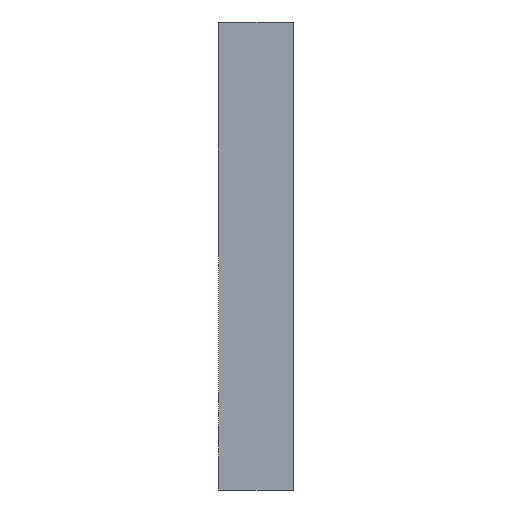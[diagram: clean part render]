
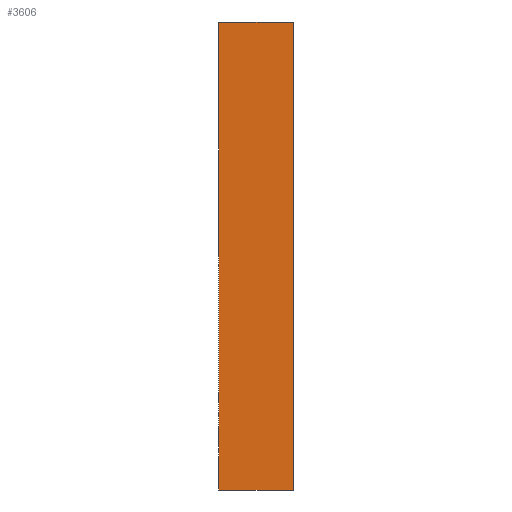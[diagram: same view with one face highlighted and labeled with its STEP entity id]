
A CAD part, left-side view. The second image highlights one B-rep face of the part: STEP entity #3606.
In plain terms, the highlighted planar face has unit normal (-1, 0, 0).
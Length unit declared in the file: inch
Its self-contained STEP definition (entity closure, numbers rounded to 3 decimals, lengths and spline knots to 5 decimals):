
#51 = CARTESIAN_POINT ( 'NONE',  ( -14.44932, 1.312, 5.28108 ) ) ;
#70 = FACE_OUTER_BOUND ( 'NONE', #329, .T. ) ;
#123 = LINE ( 'NONE', #3367, #3015 ) ;
#329 = EDGE_LOOP ( 'NONE', ( #932, #1300, #1510, #2454 ) ) ;
#393 = CARTESIAN_POINT ( 'NONE',  ( -14.44932, 0., 0. ) ) ;
#562 = LINE ( 'NONE', #2111, #3438 ) ;
#680 = DIRECTION ( 'NONE',  ( 0., 0., 1. ) ) ;
#693 = CARTESIAN_POINT ( 'NONE',  ( -14.44932, 1.312, -2.96892 ) ) ;
#799 = AXIS2_PLACEMENT_3D ( 'NONE', #393, #2353, #680 ) ;
#932 = ORIENTED_EDGE ( 'NONE', *, *, #2692, .T. ) ;
#983 = DIRECTION ( 'NONE',  ( 0., 0., -1. ) ) ;
#986 = EDGE_CURVE ( 'NONE', #2813, #2003, #3270, .T. ) ;
#1300 = ORIENTED_EDGE ( 'NONE', *, *, #2878, .T. ) ;
#1434 = DIRECTION ( 'NONE',  ( 0., 0., 1. ) ) ;
#1510 = ORIENTED_EDGE ( 'NONE', *, *, #2944, .T. ) ;
#1593 = VERTEX_POINT ( 'NONE', #3071 ) ;
#1735 = DIRECTION ( 'NONE',  ( 0., 1., 0. ) ) ;
#1831 = CARTESIAN_POINT ( 'NONE',  ( -14.44932, 0., 5.28108 ) ) ;
#2003 = VERTEX_POINT ( 'NONE', #3399 ) ;
#2111 = CARTESIAN_POINT ( 'NONE',  ( -14.44932, 1.312, -2.96892 ) ) ;
#2151 = CARTESIAN_POINT ( 'NONE',  ( -14.44932, 1.312, 5.28108 ) ) ;
#2353 = DIRECTION ( 'NONE',  ( -1., 0., 0. ) ) ;
#2454 = ORIENTED_EDGE ( 'NONE', *, *, #986, .T. ) ;
#2516 = VECTOR ( 'NONE', #983, 39.37008 ) ;
#2639 = VERTEX_POINT ( 'NONE', #1831 ) ;
#2692 = EDGE_CURVE ( 'NONE', #2003, #1593, #562, .T. ) ;
#2813 = VERTEX_POINT ( 'NONE', #2151 ) ;
#2878 = EDGE_CURVE ( 'NONE', #1593, #2639, #123, .T. ) ;
#2930 = LINE ( 'NONE', #51, #3573 ) ;
#2944 = EDGE_CURVE ( 'NONE', #2639, #2813, #2930, .T. ) ;
#3015 = VECTOR ( 'NONE', #1434, 39.37008 ) ;
#3071 = CARTESIAN_POINT ( 'NONE',  ( -14.44932, 0., -2.96892 ) ) ;
#3270 = LINE ( 'NONE', #693, #2516 ) ;
#3367 = CARTESIAN_POINT ( 'NONE',  ( -14.44932, 0., -2.96892 ) ) ;
#3399 = CARTESIAN_POINT ( 'NONE',  ( -14.44932, 1.312, -2.96892 ) ) ;
#3438 = VECTOR ( 'NONE', #3518, 39.37008 ) ;
#3439 = PLANE ( 'NONE',  #799 ) ;
#3518 = DIRECTION ( 'NONE',  ( 0., -1., 0. ) ) ;
#3573 = VECTOR ( 'NONE', #1735, 39.37008 ) ;
#3606 = ADVANCED_FACE ( 'NONE', ( #70 ), #3439, .T. ) ;
